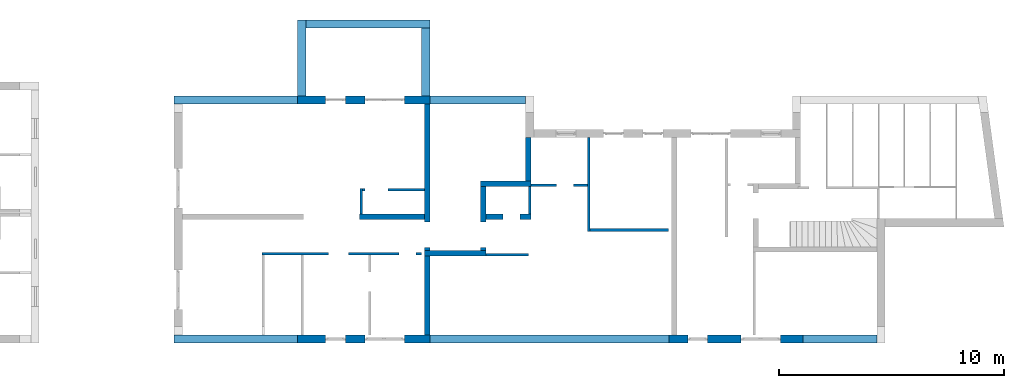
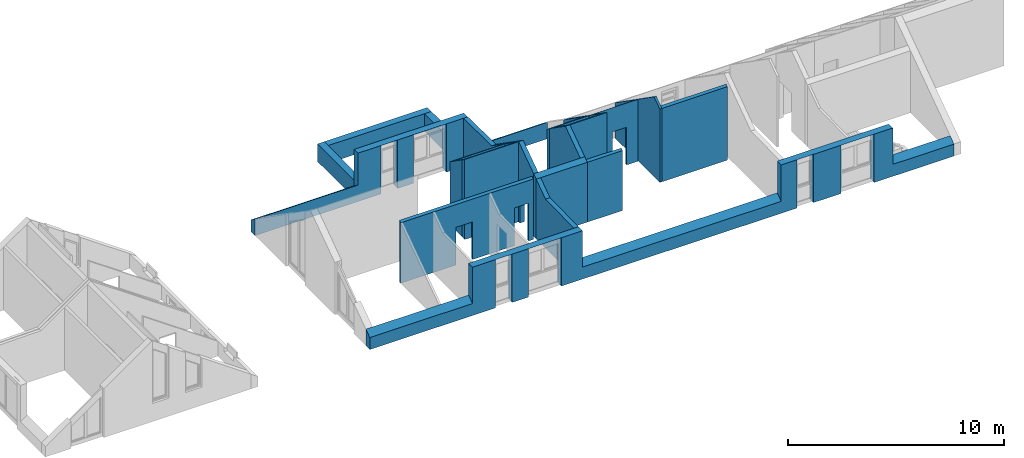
# One storey, part 2 of 23: 21 walls, 13 openings.
"""IFC2X3 building model written with IfcOpenShell, lengths in millimetres."""

from ifc_helpers import new_model, entity, si_unit, converted_unit, frame, frame_2d, origin, origin_with_axes, place, context, subcontext, project, spatial, polyline, rectangle, outline, extrude, clip, halfspace, bounded_halfspace, material, layer, layer_set, layer_usage, element, save


model = new_model("IFC2X3")

# Units and contexts
model_context = context("Model", 3, precision=1e-05, world=origin())
body_context = subcontext(model_context, "Body", "Model", "MODEL_VIEW")
ifc_project = project(units=[si_unit("LENGTHUNIT", "METRE", prefix="MILLI"), converted_unit("PLANEANGLEUNIT", "DEGREE", entity("IfcPlaneAngleMeasure", 0.0174532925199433), si_unit("PLANEANGLEUNIT", "RADIAN"), dimensions=[0, 0, 0, 0, 0, 0, 0]), si_unit("AREAUNIT", "SQUARE_METRE"), si_unit("VOLUMEUNIT", "CUBIC_METRE")], contexts=[model_context])

# Building, storey
building_placement = place(None, origin())
building = spatial("IfcBuilding", under=ifc_project, at=building_placement, Name="Gebäude", CompositionType="ELEMENT")
storey_placement = place(building_placement, frame((0.0, 0.0, 5580.0), z_axis=(0.0, 0.0, 1.0), x_axis=(1.0, 0.0, 0.0)))
storey = spatial("IfcBuildingStorey", under=building, at=storey_placement, Name="DG.- Grundriss", CompositionType="ELEMENT", Elevation=5580.0)

# Wall, openings
ifc_material_1 = material(Name="Poroton")
ifc_layer_1 = layer(ifc_material_1, 365.0000000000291)
ifc_layer_set_1 = layer_set([ifc_layer_1])
ifc_layer_usage_1 = layer_usage(ifc_layer_set_1, "AXIS2", "POSITIVE", 0.0)
wall_1_placement = place(storey_placement, frame((148357.7928067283, 125274.8877324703, 0.0), z_axis=(0.0, 0.0, 1.0), x_axis=(0.9999999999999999, -2.74927920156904e-11, 0.0)))
wall_1 = element("IfcWallStandardCase", 1, at=wall_1_placement, inside=storey, material=ifc_layer_usage_1, Name="<Unnamed Element>", context=body_context, shape_type="Clipping", body=[
    clip(clip(clip(clip(clip(extrude(rectangle(XDim=31280.0, YDim=365.0000000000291, at=frame_2d((15640.0, 182.5000000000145), x_axis=(1.0, 0.0))), origin_with_axes(), (0.0, 0.0, 1.0), 2741.54564934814), bounded_halfspace(frame((11384.99999998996, 365.0000000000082, 935.575751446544), z_axis=(-4.302969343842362e-16, 0.5735764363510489, -0.8191520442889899), x_axis=(2.252077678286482e-11, -0.8191520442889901, -0.5735764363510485)), True, origin(), polyline([(11384.99999998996, 365.0000000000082), (11385.0, -6.259463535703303e-12), (22024.99999860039, -5.552375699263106e-12), (22024.99999859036, 365.0000000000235), (11384.99999998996, 365.0000000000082)]))), bounded_halfspace(frame((5499.999999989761, 365.0000000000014, 935.5757514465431), z_axis=(-4.317638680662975e-16, 0.5735764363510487, -0.81915204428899), x_axis=(-1.0, -2.90124792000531e-15, -1.488264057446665e-15)), True, origin(), polyline([(5499.999999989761, 365.0000000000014), (-1.00348690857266e-08, 364.9999999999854), (0.0, 0.0), (5499.999999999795, 1.404948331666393e-12), (5499.999999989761, 365.0000000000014)]))), bounded_halfspace(frame((27999.99999998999, 365.0000000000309, 935.5757514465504), z_axis=(-2.419408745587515e-16, 0.5735764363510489, -0.81915204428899), x_axis=(2.252077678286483e-11, -0.8191520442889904, -0.5735764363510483)), True, origin(), polyline([(27999.99999998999, 365.0000000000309), (28000.00000000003, 1.86085872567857e-12), (31280.0, 0.0), (31279.99999998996, 365.0000000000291), (27999.99999998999, 365.0000000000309)]))), bounded_halfspace(frame((22024.99999859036, 365.0000000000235, 2741.54564934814), z_axis=(-4.801921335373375e-13, 0.01745240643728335, -0.9998476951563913), x_axis=(2.748860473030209e-11, -0.9998476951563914, -0.01745240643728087)), True, origin(), polyline([(22024.99999859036, 365.0000000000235), (22024.99999860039, -5.552375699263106e-12), (28000.00000000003, 1.86085872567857e-12), (27999.99999998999, 365.0000000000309), (22024.99999859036, 365.0000000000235)]))), bounded_halfspace(frame((5499.999999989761, 365.0000000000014, 2741.545649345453), z_axis=(-4.796320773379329e-13, 0.01745240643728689, -0.9998476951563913), x_axis=(2.748860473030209e-11, -0.9998476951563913, -0.01745240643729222)), True, origin(), polyline([(5499.999999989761, 365.0000000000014), (5499.999999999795, 1.404948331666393e-12), (11385.0, -6.259463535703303e-12), (11384.99999998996, 365.0000000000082), (5499.999999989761, 365.0000000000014)]))),
])
opening_1_placement = place(wall_1_placement, frame((8489.999999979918, -3.477907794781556e-11, 0.0), z_axis=(0.0, 1.0, 0.0), x_axis=(0.0, 0.0, 1.0)))
element("IfcOpeningElement", 2, at=opening_1_placement, cuts=wall_1, Name="Fensteröffnung", ObjectType="Opening", context=body_context, shape_type="SweptSolid", body=[
    extrude(rectangle(XDim=2735.174550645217, YDim=1760.0, at=frame_2d((1367.587275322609, 880.0), x_axis=(1.0, 0.0))), origin_with_axes(), (0.0, 0.0, 1.0), 365.0),
])
opening_2_placement = place(wall_1_placement, frame((25240.29648749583, -1.030266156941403e-10, 0.0), z_axis=(0.0, 1.0, 0.0), x_axis=(0.0, 0.0, 1.0)))
element("IfcOpeningElement", 3, at=opening_2_placement, cuts=wall_1, Name="Fensteröffnung", ObjectType="Opening", context=body_context, shape_type="SweptSolid", body=[
    extrude(rectangle(XDim=2735.174550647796, YDim=1760.0, at=frame_2d((1367.587275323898, 880.0), x_axis=(1.0, 0.0))), origin_with_axes(), (0.0, 0.0, 1.0), 365.0000000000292),
])
opening_3_placement = place(wall_1_placement, frame((6739.999999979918, -3.114109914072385e-11, 0.0), z_axis=(0.0, 1.0, 0.0), x_axis=(0.0, 0.0, 1.0)))
element("IfcOpeningElement", 4, at=opening_3_placement, cuts=wall_1, Name="Fensteröffnung", ObjectType="Opening", context=body_context, shape_type="SweptSolid", body=[
    extrude(rectangle(XDim=2735.174550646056, YDim=885.0, at=frame_2d((1367.587275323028, 442.5), x_axis=(1.0, 0.0))), origin_with_axes(), (0.0, 0.0, 1.0), 365.0000000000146),
])
opening_4_placement = place(wall_1_placement, frame((22865.29648749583, -9.393166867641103e-11, 0.0), z_axis=(0.0, 1.0, 0.0), x_axis=(0.0, 0.0, 1.0)))
element("IfcOpeningElement", 5, at=opening_4_placement, cuts=wall_1, Name="Fensteröffnung", ObjectType="Opening", context=body_context, shape_type="SweptSolid", body=[
    extrude(rectangle(XDim=2735.174550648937, YDim=885.0, at=frame_2d((1367.587275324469, 442.5), x_axis=(1.0, 0.0))), origin_with_axes(), (0.0, 0.0, 1.0), 365.0000000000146),
])

ifc_material_2 = material(Name="Poroton")
ifc_layer_2 = layer(ifc_material_2, 365.0000000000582)
ifc_layer_set_2 = layer_set([ifc_layer_2])
ifc_layer_usage_2 = layer_usage(ifc_layer_set_2, "AXIS2", "POSITIVE", 0.0)
wall_2_placement = place(storey_placement, frame((164002.7928067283, 136274.8877324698, 0.0), z_axis=(0.0, 0.0, 1.0), x_axis=(-1.0, 0.0, 0.0)))
wall_2 = element("IfcWallStandardCase", 6, at=wall_2_placement, inside=storey, material=ifc_layer_usage_2, Name="<Unnamed Element>", context=body_context, shape_type="Clipping", body=[
    clip(clip(clip(extrude(rectangle(XDim=15645.00000000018, YDim=365.0000000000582, at=frame_2d((7822.500000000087, 182.5000000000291), x_axis=(1.0, 0.0))), origin_with_axes(), (0.0, 0.0, 1.0), 2741.371098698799), bounded_halfspace(frame((10145.0000000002, 365.0000000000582, 935.5757514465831), z_axis=(6.652246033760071e-17, 0.5735764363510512, -0.8191520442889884), x_axis=(0.0, -0.819152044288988, -0.5735764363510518)), True, origin(), polyline([(10145.0000000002, 365.0000000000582), (10145.0000000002, 0.0), (15645.00000000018, 0.0), (15645.00000000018, 365.0000000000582), (10145.0000000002, 365.0000000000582)]))), bounded_halfspace(frame((0.0, 365.0000000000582, 935.5757514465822), z_axis=(8.588580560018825e-17, 0.5735764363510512, -0.8191520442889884), x_axis=(0.0, -0.819152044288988, -0.5735764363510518)), True, origin(), polyline([(0.0, 365.0000000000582), (0.0, 0.0), (4260.0, 0.0), (4260.0, 365.0000000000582), (0.0, 365.0000000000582)]))), bounded_halfspace(frame((4260.0, 365.0000000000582, 2741.371098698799), z_axis=(0.0, 0.01745240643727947, -0.9998476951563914), x_axis=(0.0, -0.9998476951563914, -0.01745240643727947)), True, origin(), polyline([(4260.0, 365.0000000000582), (4260.0, 0.0), (10145.0000000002, 0.0), (10145.0000000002, 365.0000000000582), (4260.0, 365.0000000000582)]))),
])
opening_5_placement = place(wall_2_placement, frame((8020.000000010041, 2.91038304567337e-11, 0.0), z_axis=(0.0, 1.0, 0.0), x_axis=(0.0, 0.0, 1.0)))
element("IfcOpeningElement", 7, at=opening_5_placement, cuts=wall_2, Name="Fensteröffnung", ObjectType="Opening", context=body_context, shape_type="SweptSolid", body=[
    extrude(rectangle(XDim=2735.0, YDim=885.0, at=frame_2d((1367.5, 442.5), x_axis=(1.0, 0.0))), origin_with_axes(), (0.0, 0.0, 1.0), 365.0000000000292),
])
opening_6_placement = place(wall_2_placement, frame((5395.000000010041, 5.820766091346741e-11, 0.0), z_axis=(0.0, 1.0, 0.0), x_axis=(0.0, 0.0, 1.0)))
element("IfcOpeningElement", 8, at=opening_6_placement, cuts=wall_2, Name="Fensteröffnung", ObjectType="Opening", context=body_context, shape_type="SweptSolid", body=[
    extrude(rectangle(XDim=2735.0, YDim=1760.0, at=frame_2d((1367.5, 880.0), x_axis=(1.0, 0.0))), origin_with_axes(), (0.0, 0.0, 1.0), 365.0),
])

# Wall
ifc_material_3 = material(Name="Hlz")
ifc_layer_3 = layer(ifc_material_3, 240.0)
ifc_layer_set_3 = layer_set([ifc_layer_3])
ifc_layer_usage_3 = layer_usage(ifc_layer_set_3, "AXIS2", "POSITIVE", 0.0)
wall_3_placement = place(storey_placement, frame((164002.7928067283, 134409.8877324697, 0.0), z_axis=(0.0, 0.0, 1.0), x_axis=(0.0, -1.0, 0.0)))
element("IfcWallStandardCase", 9, at=wall_3_placement, inside=storey, material=ifc_layer_usage_3, Name="<Unnamed Element>", context=body_context, shape_type="Clipping", body=[
    clip(extrude(rectangle(XDim=1925.000000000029, YDim=240.0, at=frame_2d((962.5000000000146, 120.0), x_axis=(1.0, 0.0))), origin_with_axes(), (0.0, 0.0, 1.0), 3333.786569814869), halfspace(frame((0.0, 0.0, 1985.88705876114), z_axis=(0.573576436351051, -2.064109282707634e-16, -0.8191520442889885), x_axis=(0.8191520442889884, 0.0, 0.573576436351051)), True)),
])

# Wall, opening
ifc_material_4 = material(Name="Hlz")
ifc_layer_4 = layer(ifc_material_4, 240.0)
ifc_layer_set_4 = layer_set([ifc_layer_4])
ifc_layer_usage_4 = layer_usage(ifc_layer_set_4, "AXIS2", "POSITIVE", 0.0)
wall_4_placement = place(storey_placement, frame((162242.7928067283, 129389.8877324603, 0.0), z_axis=(0.0, 0.0, 1.0), x_axis=(0.0, 0.9999999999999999, 0.0)))
wall_4 = element("IfcWallStandardCase", 10, at=wall_4_placement, inside=storey, material=ifc_layer_usage_4, Name="<Unnamed Element>", context=body_context, shape_type="Clipping", body=[
    clip(clip(extrude(rectangle(XDim=2855.000000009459, YDim=240.0, at=frame_2d((1427.500000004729, 120.0), x_axis=(1.0, 0.0))), origin_with_axes(), (0.0, 0.0, 1.0), 4531.141460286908), bounded_halfspace(frame((1384.999999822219, 240.0, 4531.141460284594), z_axis=(-0.5735764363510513, -1.332465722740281e-15, -0.8191520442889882), x_axis=(-1.376368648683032e-11, -1.0, 9.64064383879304e-12)), True, origin(), polyline([(1384.999999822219, 240.0), (1384.999999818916, 0.0), (2855.000000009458, 0.0), (2855.000000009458, 240.0), (1384.999999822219, 240.0)]))), bounded_halfspace(frame((0.0, 0.0, 3561.354019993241), z_axis=(0.5735764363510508, -1.578059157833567e-11, -0.8191520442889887), x_axis=(0.8191520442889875, 0.0, 0.5735764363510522)), True, origin(), polyline([(0.0, 0.0), (1384.999999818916, 0.0), (1384.999999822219, 240.0), (0.0, 240.0), (0.0, 0.0)]))),
])
opening_7_placement = place(wall_4_placement, frame((124.9999998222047, 0.0, 0.0), z_axis=(0.0, 1.0, 0.0), x_axis=(0.0, 0.0, 1.0)))
element("IfcOpeningElement", 11, at=opening_7_placement, cuts=wall_4, Name="Türöffnung", ObjectType="Opening", context=body_context, shape_type="SweptSolid", body=[
    extrude(rectangle(XDim=2135.0, YDim=1135.0, at=frame_2d((1067.5, 567.5), x_axis=(1.0, 0.0))), origin_with_axes(), (0.0, 0.0, 1.0), 240.0),
])

# Wall
ifc_material_5 = material(Name="Hlz")
ifc_layer_5 = layer(ifc_material_5, 240.0)
ifc_layer_set_5 = layer_set([ifc_layer_5])
ifc_layer_usage_5 = layer_usage(ifc_layer_set_5, "AXIS2", "POSITIVE", 0.0)
wall_5_placement = place(storey_placement, frame((164242.7928067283, 132484.8877324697, 0.0), z_axis=(0.0, 0.0, 1.0), x_axis=(-1.0, 0.0, 0.0)))
element("IfcWallStandardCase", 12, at=wall_5_placement, inside=storey, material=ifc_layer_usage_5, Name="<Unnamed Element>", context=body_context, shape_type="Clipping", body=[
    clip(extrude(rectangle(XDim=2240.0, YDim=240.0, at=frame_2d((1120.0, 120.0), x_axis=(1.0, 0.0))), origin_with_axes(), (0.0, 0.0, 1.0), 3501.836378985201), halfspace(frame((0.0, 0.0, 3333.786569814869), z_axis=(0.0, 0.5735764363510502, -0.8191520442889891), x_axis=(1.0, 0.0, 0.0)), True)),
])

# Wall, opening
ifc_material_6 = material(Name="Hlz")
ifc_layer_6 = layer(ifc_material_6, 115.0)
ifc_layer_set_6 = layer_set([ifc_layer_6])
ifc_layer_usage_6 = layer_usage(ifc_layer_set_6, "AXIS2", "POSITIVE", 0.0)
wall_6_placement = place(storey_placement, frame((164242.7928067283, 132244.8877324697, 0.0), z_axis=(0.0, 0.0, 1.0), x_axis=(1.0, 0.0, 0.0)))
wall_6 = element("IfcWallStandardCase", 13, at=wall_6_placement, inside=storey, material=ifc_layer_usage_6, Name="<Unnamed Element>", context=body_context, shape_type="Clipping", body=[
    clip(extrude(rectangle(XDim=2510.0, YDim=115.0, at=frame_2d((1255.0, 57.5), x_axis=(1.0, 0.0))), origin_with_axes(), (0.0, 0.0, 1.0), 3501.836378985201), halfspace(frame((0.0, 0.0, 3501.836378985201), z_axis=(0.0, -0.5735764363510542, -0.8191520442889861), x_axis=(1.0, 0.0, 0.0)), True)),
])
opening_8_placement = place(wall_6_placement, frame((1125.0, 0.0, 0.0), z_axis=(0.0, 1.0, 0.0), x_axis=(0.0, 0.0, 1.0)))
element("IfcOpeningElement", 14, at=opening_8_placement, cuts=wall_6, Name="Türöffnung", ObjectType="Opening", context=body_context, shape_type="SweptSolid", body=[
    extrude(rectangle(XDim=2135.0, YDim=760.0, at=frame_2d((1067.5, 380.0), x_axis=(1.0, 0.0))), origin_with_axes(), (0.0, 0.0, 1.0), 115.0),
])

# Wall
ifc_material_7 = material(Name="Hlz")
ifc_layer_7 = layer(ifc_material_7, 115.0)
ifc_layer_set_7 = layer_set([ifc_layer_7])
ifc_layer_usage_7 = layer_usage(ifc_layer_set_7, "AXIS2", "POSITIVE", 0.0)
wall_7_placement = place(storey_placement, frame((166752.7928067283, 134409.8877324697, 0.0), z_axis=(0.0, 0.0, 1.0), x_axis=(0.0, -1.0, 0.0)))
element("IfcWallStandardCase", 15, at=wall_7_placement, inside=storey, material=ifc_layer_usage_7, Name="<Unnamed Element>", context=body_context, shape_type="Clipping", body=[
    clip(clip(extrude(rectangle(XDim=4164.999906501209, YDim=115.0, at=frame_2d((2082.499953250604, 57.5), x_axis=(1.0, 0.0))), origin_with_axes(), (0.0, 0.0, 1.0), 4531.141460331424), bounded_halfspace(frame((0.0, 0.0, 1985.88705876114), z_axis=(0.5735764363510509, 3.182306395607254e-15, -0.8191520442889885), x_axis=(0.8191520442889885, 0.0, 0.5735764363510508)), True, origin(), polyline([(0.0, 0.0), (3635.000000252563, 0.0), (3635.000000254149, 115.0), (0.0, 115.0), (0.0, 0.0)]))), bounded_halfspace(frame((4164.999906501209, 115.0, 4160.031530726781), z_axis=(-0.5735764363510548, 1.579807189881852e-11, -0.8191520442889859), x_axis=(-0.8191520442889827, 0.0, 0.5735764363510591)), True, origin(), polyline([(4164.999906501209, 115.0), (3635.000000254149, 115.0), (3635.000000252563, 0.0), (4164.999906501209, 0.0), (4164.999906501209, 115.0)]))),
])

# Wall, opening
ifc_material_8 = material(Name="Hlz")
ifc_layer_8 = layer(ifc_material_8, 240.0)
ifc_layer_set_8 = layer_set([ifc_layer_8])
ifc_layer_usage_8 = layer_usage(ifc_layer_set_8, "AXIS2", "POSITIVE", 0.0)
wall_8_placement = place(storey_placement, frame((159742.7928067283, 125639.8877321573, 0.0), z_axis=(0.0, 0.0, 1.0), x_axis=(0.0, 1.0, 0.0)))
wall_8 = element("IfcWallStandardCase", 16, at=wall_8_placement, inside=storey, material=ifc_layer_usage_8, Name="<Unnamed Element>", context=body_context, shape_type="Clipping", body=[
    clip(clip(clip(clip(clip(extrude(outline(polyline([(3750.000000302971, 0.0), (10270.00000031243, 0.0), (10270.00000031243, 240.0), (3750.000000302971, 240.0), (3750.000000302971, 0.0)])), origin_with_axes(), (0.0, 0.0, 1.0), 4531.14146026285), bounded_halfspace(frame((5135.000000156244, 0.0, 4531.14146026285), z_axis=(-0.5735764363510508, -9.758491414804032e-16, -0.8191520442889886), x_axis=(0.8191520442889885, 0.0, -0.5735764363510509)), True, origin(), polyline([(5135.000000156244, 0.0), (7625.124415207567, 0.0), (7625.124415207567, 240.0), (5135.000000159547, 240.0), (5135.000000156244, 0.0)]))), bounded_halfspace(frame((3750.000000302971, 0.0, 3561.354019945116), z_axis=(0.5735764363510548, -1.57807350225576e-11, -0.8191520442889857), x_axis=(0.8191520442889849, 0.0, 0.5735764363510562)), True, origin(), polyline([(3750.000000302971, 0.0), (5135.000000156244, 0.0), (5135.000000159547, 240.0), (3750.000000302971, 240.0), (3750.000000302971, 0.0)]))), bounded_halfspace(frame((2645.131242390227, 0.0, 2787.71658692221), z_axis=(0.5735764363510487, -1.576883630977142e-11, -0.8191520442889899), x_axis=(0.8191520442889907, 0.0, 0.5735764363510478)), True, origin(), polyline([(2645.131242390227, 0.0), (3510.000000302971, 0.0), (3510.000000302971, 240.0), (2645.131242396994, 240.0), (2645.131242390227, 0.0)]))), bounded_halfspace(frame((10270.00000031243, 240.0, 2741.371098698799), z_axis=(-0.01745240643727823, 0.0, -0.9998476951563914), x_axis=(-0.9998476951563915, 0.0, 0.01745240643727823)), True, origin(), polyline([(10270.00000031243, 240.0), (7625.124415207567, 240.0), (7625.124415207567, 0.0), (10270.00000031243, 0.0), (10270.00000031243, 240.0)]))), bounded_halfspace(frame((6.592017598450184e-09, 240.0, 2741.545649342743), z_axis=(0.01745240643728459, -4.506230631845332e-15, -0.9998476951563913), x_axis=(-2.746673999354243e-11, -1.0, -4.774847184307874e-13)), True, origin(), polyline([(6.592017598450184e-09, 240.0), (0.0, 0.0), (2645.131242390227, 0.0), (2645.131242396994, 240.0), (6.592017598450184e-09, 240.0)]))),
])
opening_9_placement = place(wall_8_placement, frame((3875.000000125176, 0.0, 0.0), z_axis=(0.0, 1.0, 0.0), x_axis=(0.0, 0.0, 1.0)))
element("IfcOpeningElement", 17, at=opening_9_placement, cuts=wall_8, Name="Türöffnung", ObjectType="Opening", context=body_context, shape_type="SweptSolid", body=[
    extrude(rectangle(XDim=2135.0, YDim=1135.0, at=frame_2d((1067.5, 567.5), x_axis=(1.0, 0.0))), origin_with_axes(), (0.0, 0.0, 1.0), 240.0),
])

# Wall
ifc_material_9 = material(Name="Hlz")
ifc_layer_9 = layer(ifc_material_9, 240.0)
ifc_layer_set_9 = layer_set([ifc_layer_9])
ifc_layer_usage_9 = layer_usage(ifc_layer_set_9, "AXIS2", "POSITIVE", 0.0)
wall_9_placement = place(storey_placement, frame((159742.7928067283, 125639.8877321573, 0.0), z_axis=(0.0, 0.0, 1.0), x_axis=(0.0, 1.0, 0.0)))
element("IfcWallStandardCase", 18, at=wall_9_placement, inside=storey, material=ifc_layer_usage_9, Name="<Unnamed Element>", context=body_context, shape_type="Clipping", body=[
    clip(clip(clip(clip(clip(extrude(outline(polyline([(0.0, 0.0), (3510.000000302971, 0.0), (3510.000000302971, 240.0), (6.592017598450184e-09, 240.0), (0.0, 0.0)])), origin_with_axes(), (0.0, 0.0, 1.0), 4531.14146026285), bounded_halfspace(frame((5135.000000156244, 0.0, 4531.14146026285), z_axis=(-0.5735764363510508, -9.758491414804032e-16, -0.8191520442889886), x_axis=(0.8191520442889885, 0.0, -0.5735764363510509)), True, origin(), polyline([(5135.000000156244, 0.0), (7625.124415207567, 0.0), (7625.124415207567, 240.0), (5135.000000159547, 240.0), (5135.000000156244, 0.0)]))), bounded_halfspace(frame((3750.000000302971, 0.0, 3561.354019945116), z_axis=(0.5735764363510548, -1.57807350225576e-11, -0.8191520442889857), x_axis=(0.8191520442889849, 0.0, 0.5735764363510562)), True, origin(), polyline([(3750.000000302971, 0.0), (5135.000000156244, 0.0), (5135.000000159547, 240.0), (3750.000000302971, 240.0), (3750.000000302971, 0.0)]))), bounded_halfspace(frame((2645.131242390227, 0.0, 2787.71658692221), z_axis=(0.5735764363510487, -1.576883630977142e-11, -0.8191520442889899), x_axis=(0.8191520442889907, 0.0, 0.5735764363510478)), True, origin(), polyline([(2645.131242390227, 0.0), (3510.000000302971, 0.0), (3510.000000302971, 240.0), (2645.131242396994, 240.0), (2645.131242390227, 0.0)]))), bounded_halfspace(frame((10270.00000031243, 240.0, 2741.371098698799), z_axis=(-0.01745240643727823, 0.0, -0.9998476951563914), x_axis=(-0.9998476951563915, 0.0, 0.01745240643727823)), True, origin(), polyline([(10270.00000031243, 240.0), (7625.124415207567, 240.0), (7625.124415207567, 0.0), (10270.00000031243, 0.0), (10270.00000031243, 240.0)]))), bounded_halfspace(frame((6.592017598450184e-09, 240.0, 2741.545649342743), z_axis=(0.01745240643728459, -4.506230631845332e-15, -0.9998476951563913), x_axis=(-2.746673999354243e-11, -1.0, -4.774847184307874e-13)), True, origin(), polyline([(6.592017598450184e-09, 240.0), (0.0, 0.0), (2645.131242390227, 0.0), (2645.131242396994, 240.0), (6.592017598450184e-09, 240.0)]))),
])

# Wall, opening
ifc_material_10 = material(Name="Hlz")
ifc_layer_10 = layer(ifc_material_10, 240.0)
ifc_layer_set_10 = layer_set([ifc_layer_10])
ifc_layer_usage_10 = layer_usage(ifc_layer_set_10, "AXIS2", "POSITIVE", 0.0)
wall_10_placement = place(storey_placement, frame((162242.7928067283, 130774.8877324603, 0.0), z_axis=(0.0, 0.0, 1.0), x_axis=(1.0, 0.0, 0.0)))
wall_10 = element("IfcWallStandardCase", 19, at=wall_10_placement, inside=storey, material=ifc_layer_usage_10, Name="<Unnamed Element>", context=body_context, shape_type="Clipping", body=[
    clip(extrude(rectangle(XDim=2000.0, YDim=240.0, at=frame_2d((1000.0, 120.0), x_axis=(1.0, 0.0))), origin_with_axes(), (0.0, 0.0, 1.0), 4531.14146016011), halfspace(frame((0.0, 240.0, 4363.091650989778), z_axis=(0.0, -0.5735764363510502, -0.819152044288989), x_axis=(0.0, -0.819152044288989, 0.57357643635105)), True)),
])
opening_10_placement = place(wall_10_placement, frame((750.0, 0.0, 0.0), z_axis=(0.0, 1.0, 0.0), x_axis=(0.0, 0.0, 1.0)))
element("IfcOpeningElement", 20, at=opening_10_placement, cuts=wall_10, Name="Türöffnung", ObjectType="Opening", context=body_context, shape_type="SweptSolid", body=[
    extrude(rectangle(XDim=2135.0, YDim=760.0, at=frame_2d((1067.5, 380.0), x_axis=(1.0, 0.0))), origin_with_axes(), (0.0, 0.0, 1.0), 240.0),
])

# Wall
ifc_material_11 = material(Name="Hlz")
ifc_layer_11 = layer(ifc_material_11, 240.0)
ifc_layer_set_11 = layer_set([ifc_layer_11])
ifc_layer_usage_11 = layer_usage(ifc_layer_set_11, "AXIS2", "POSITIVE", 0.0)
wall_11_placement = place(storey_placement, frame((159502.7928067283, 129149.8877324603, 0.0), z_axis=(0.0, 0.0, 1.0), x_axis=(0.9999999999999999, 0.0, 0.0)))
element("IfcWallStandardCase", 21, at=wall_11_placement, inside=storey, material=ifc_layer_usage_11, Name="<Unnamed Element>", context=body_context, shape_type="Clipping", body=[
    clip(extrude(rectangle(XDim=2740.0, YDim=240.0, at=frame_2d((1370.0, 120.0), x_axis=(1.0, 0.0))), origin_with_axes(), (0.0, 0.0, 1.0), 3561.354019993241), halfspace(frame((0.0, 0.0, 3393.304210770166), z_axis=(1.576874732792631e-11, 0.5735764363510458, -0.8191520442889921), x_axis=(1.0, 0.0, 1.925008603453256e-11)), True)),
])

# Wall, openings
ifc_material_12 = material(Name="Hlz")
ifc_layer_12 = layer(ifc_material_12, 115.0)
ifc_layer_set_12 = layer_set([ifc_layer_12])
ifc_layer_usage_12 = layer_usage(ifc_layer_set_12, "AXIS2", "POSITIVE", 0.0)
wall_12_placement = place(storey_placement, frame((159372.7668051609, 129309.8878532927, 0.0), z_axis=(0.0, 0.0, 1.0), x_axis=(-1.0, 0.0, 0.0)))
wall_12 = element("IfcWallStandardCase", 22, at=wall_12_placement, inside=storey, material=ifc_layer_usage_12, Name="<Unnamed Element>", context=body_context, shape_type="Clipping", body=[
    clip(extrude(rectangle(XDim=7104.712661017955, YDim=115.0, at=frame_2d((3552.356330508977, 57.5), x_axis=(1.0, 0.0))), origin_with_axes(), (0.0, 0.0, 1.0), 3505.33750148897), halfspace(frame((0.0, 0.0, 3505.33750148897), z_axis=(-1.576883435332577e-11, -0.5735764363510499, -0.8191520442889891), x_axis=(1.0, 0.0, -1.925006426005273e-11)), True)),
])
opening_11_placement = place(wall_12_placement, frame((3250.0, 0.0, 0.0), z_axis=(0.0, 1.0, 0.0), x_axis=(0.0, 0.0, 1.0)))
element("IfcOpeningElement", 23, at=opening_11_placement, cuts=wall_12, Name="Türöffnung", ObjectType="Opening", context=body_context, shape_type="SweptSolid", body=[
    extrude(rectangle(XDim=2135.0, YDim=885.0, at=frame_2d((1067.5, 442.5), x_axis=(1.0, 0.0))), origin_with_axes(), (0.0, 0.0, 1.0), 115.0),
])
opening_12_placement = place(wall_12_placement, frame((250.0, 0.0, 0.0), z_axis=(0.0, 1.0, 0.0), x_axis=(0.0, 0.0, 1.0)))
element("IfcOpeningElement", 24, at=opening_12_placement, cuts=wall_12, Name="Türöffnung", ObjectType="Opening", context=body_context, shape_type="SweptSolid", body=[
    extrude(rectangle(XDim=2135.0, YDim=760.0, at=frame_2d((1067.5, 380.0), x_axis=(1.0, 0.0))), origin_with_axes(), (0.0, 0.0, 1.0), 115.0),
])

# Wall
ifc_material_13 = material(Name="Hlz")
ifc_layer_13 = layer(ifc_material_13, 240.0)
ifc_layer_set_13 = layer_set([ifc_layer_13])
ifc_layer_usage_13 = layer_usage(ifc_layer_set_13, "AXIS2", "POSITIVE", 0.0)
wall_13_placement = place(storey_placement, frame((156612.7665496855, 130774.8877324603, 0.0), z_axis=(0.0, 0.0, 1.0), x_axis=(0.9999999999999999, 0.0, 0.0)))
element("IfcWallStandardCase", 25, at=wall_13_placement, inside=storey, material=ifc_layer_usage_13, Name="<Unnamed Element>", context=body_context, shape_type="Clipping", body=[
    clip(extrude(rectangle(XDim=2890.02625704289, YDim=240.0, at=frame_2d((1445.013128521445, 120.0), x_axis=(1.0, 0.0))), origin_with_axes(), (0.0, 0.0, 1.0), 4531.14146016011), halfspace(frame((0.0, 240.0, 4363.091650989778), z_axis=(0.0, -0.5735764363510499, -0.819152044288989), x_axis=(0.0, -0.8191520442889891, 0.5735764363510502)), True)),
])

# Wall, opening
ifc_material_14 = material(Name="Hlz")
ifc_layer_14 = layer(ifc_material_14, 115.0)
ifc_layer_set_14 = layer_set([ifc_layer_14])
ifc_layer_usage_14 = layer_usage(ifc_layer_set_14, "AXIS2", "POSITIVE", 0.0)
wall_14_placement = place(storey_placement, frame((159502.7928067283, 132149.8879325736, 0.0), z_axis=(0.0, 0.0, 1.0), x_axis=(-1.0, 0.0, 0.0)))
wall_14 = element("IfcWallStandardCase", 26, at=wall_14_placement, inside=storey, material=ifc_layer_usage_14, Name="<Unnamed Element>", context=body_context, shape_type="Clipping", body=[
    clip(extrude(rectangle(XDim=2765.025816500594, YDim=115.0, at=frame_2d((1382.512908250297, 57.5), x_axis=(1.0, 0.0))), origin_with_axes(), (0.0, 0.0, 1.0), 3648.879821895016), halfspace(frame((0.0, 0.0, 3568.3559550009), z_axis=(0.0, 0.5735764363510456, -0.8191520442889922), x_axis=(1.0, 0.0, 0.0)), True)),
])
opening_13_placement = place(wall_14_placement, frame((1630.025816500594, 0.0, 0.0), z_axis=(0.0, 1.0, 0.0), x_axis=(0.0, 0.0, 1.0)))
element("IfcOpeningElement", 27, at=opening_13_placement, cuts=wall_14, Name="Türöffnung", ObjectType="Opening", context=body_context, shape_type="SweptSolid", body=[
    extrude(rectangle(XDim=2135.0, YDim=1010.0, at=frame_2d((1067.5, 505.0), x_axis=(1.0, 0.0))), origin_with_axes(), (0.0, 0.0, 1.0), 115.0),
])

# Walls
ifc_material_15 = material(Name="Hlz")
ifc_layer_15 = layer(ifc_material_15, 115.0)
ifc_layer_set_15 = layer_set([ifc_layer_15])
ifc_layer_usage_15 = layer_usage(ifc_layer_set_15, "AXIS2", "POSITIVE", 0.0)
wall_15_placement = place(storey_placement, frame((156737.7669902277, 131014.8877324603, 0.0), z_axis=(0.0, 0.0, 1.0), x_axis=(0.0, 1.0, 0.0)))
element("IfcWallStandardCase", 28, at=wall_15_placement, inside=storey, material=ifc_layer_usage_15, Name="<Unnamed Element>", context=body_context, shape_type="Clipping", body=[
    clip(extrude(rectangle(XDim=1135.000200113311, YDim=115.0, at=frame_2d((567.5001000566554, 57.5), x_axis=(1.0, 0.0))), origin_with_axes(), (0.0, 0.0, 1.0), 4363.091650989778), halfspace(frame((0.0, 0.0, 4363.091650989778), z_axis=(-0.5735764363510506, 1.826505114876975e-16, -0.8191520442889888), x_axis=(0.8191520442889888, 0.0, -0.5735764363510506)), True)),
])
ifc_material_16 = material(Name="Hlz")
ifc_layer_16 = layer(ifc_material_16, 115.0)
ifc_layer_set_16 = layer_set([ifc_layer_16])
ifc_layer_usage_16 = layer_usage(ifc_layer_set_16, "AXIS2", "POSITIVE", 0.0)
wall_16_placement = place(storey_placement, frame((166867.7928067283, 130244.8878259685, 0.0), z_axis=(0.0, 0.0, 1.0), x_axis=(1.0, 0.0, 0.0)))
element("IfcWallStandardCase", 29, at=wall_16_placement, inside=storey, material=ifc_layer_usage_16, Name="<Unnamed Element>", context=body_context, shape_type="Clipping", body=[
    clip(extrude(rectangle(XDim=3504.999967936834, YDim=115.0, at=frame_2d((1752.499983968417, 57.5), x_axis=(1.0, 0.0))), origin_with_axes(), (0.0, 0.0, 1.0), 4240.555397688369), halfspace(frame((0.0, 0.0, 4160.031530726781), z_axis=(1.576837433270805e-11, 0.5735764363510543, -0.8191520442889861), x_axis=(1.0, 0.0, 1.924963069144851e-11)), True)),
])
ifc_material_17 = material(Name="Hlz")
ifc_layer_17 = layer(ifc_material_17, 115.0)
ifc_layer_set_17 = layer_set([ifc_layer_17])
ifc_layer_usage_17 = layer_usage(ifc_layer_set_17, "AXIS2", "POSITIVE", 0.0)
wall_17_placement = place(storey_placement, frame((162242.7928067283, 129149.8877324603, 0.0), z_axis=(0.0, 0.0, 1.0), x_axis=(0.9999999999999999, 0.0, 0.0)))
element("IfcWallStandardCase", 30, at=wall_17_placement, inside=storey, material=ifc_layer_usage_17, Name="<Unnamed Element>", context=body_context, shape_type="Clipping", body=[
    clip(extrude(rectangle(XDim=1880.213921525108, YDim=115.0, at=frame_2d((940.1069607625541, 57.49999999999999), x_axis=(1.0, 0.0))), origin_with_axes(), (0.0, 0.0, 1.0), 3473.828077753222), halfspace(frame((0.0, 0.0, 3393.304210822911), z_axis=(1.576873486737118e-11, 0.5735764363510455, -0.8191520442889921), x_axis=(1.0, 0.0, 1.925007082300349e-11)), True)),
])
ifc_material_18 = material(Name="Hlz")
ifc_layer_18 = layer(ifc_material_18, 115.0)
ifc_layer_set_18 = layer_set([ifc_layer_18])
ifc_layer_usage_18 = layer_usage(ifc_layer_set_18, "AXIS2", "POSITIVE", 0.0)
wall_18_placement = place(storey_placement, frame((164127.7928067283, 132244.8877324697, 0.0), z_axis=(0.0, 0.0, 1.0), x_axis=(0.0, -1.0, 0.0)))
element("IfcWallStandardCase", 31, at=wall_18_placement, inside=storey, material=ifc_layer_usage_18, Name="<Unnamed Element>", context=body_context, shape_type="Clipping", body=[
    clip(extrude(rectangle(XDim=1230.000000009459, YDim=115.0, at=frame_2d((615.0000000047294, 57.5), x_axis=(1.0, 0.0))), origin_with_axes(), (0.0, 0.0, 1.0), 4363.091650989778), halfspace(frame((0.0, 0.0, 3501.836378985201), z_axis=(0.5735764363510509, 0.0, -0.8191520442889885), x_axis=(0.8191520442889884, 0.0, 0.5735764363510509)), True)),
])
ifc_material_19 = material(Name="Poroton")
ifc_layer_19 = layer(ifc_material_19, 365.0000000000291)
ifc_layer_set_19 = layer_set([ifc_layer_19])
ifc_layer_usage_19 = layer_usage(ifc_layer_set_19, "AXIS2", "POSITIVE", 0.0)
wall_19_placement = place(storey_placement, frame((154222.7928067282, 136274.8877324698, 0.0), z_axis=(0.0, 0.0, 1.0), x_axis=(0.0, 1.0, 0.0)))
element("IfcWallStandardCase", 32, at=wall_19_placement, inside=storey, material=ifc_layer_usage_19, Name="<Unnamed Element>", context=body_context, shape_type="SweptSolid", body=[
    extrude(rectangle(XDim=3374.999999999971, YDim=365.0000000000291, at=frame_2d((1687.499999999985, 182.5000000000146), x_axis=(1.0, 0.0))), origin_with_axes(), (0.0, 0.0, 1.0), 1000.0),
])
ifc_material_20 = material(Name="Poroton")
ifc_layer_20 = layer(ifc_material_20, 365.0000000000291)
ifc_layer_set_20 = layer_set([ifc_layer_20])
ifc_layer_usage_20 = layer_usage(ifc_layer_set_20, "AXIS2", "POSITIVE", 0.0)
wall_20_placement = place(storey_placement, frame((154222.7928067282, 139284.8877324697, 0.0), z_axis=(0.0, 0.0, 1.0), x_axis=(0.9999999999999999, 0.0, 0.0)))
element("IfcWallStandardCase", 33, at=wall_20_placement, inside=storey, material=ifc_layer_usage_20, Name="<Unnamed Element>", context=body_context, shape_type="SweptSolid", body=[
    extrude(rectangle(XDim=5520.000000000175, YDim=365.0000000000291, at=frame_2d((2760.000000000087, 182.5000000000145), x_axis=(1.0, 0.0))), origin_with_axes(), (0.0, 0.0, 1.0), 1000.0),
])
ifc_material_21 = material(Name="Poroton")
ifc_layer_21 = layer(ifc_material_21, 365.0000000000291)
ifc_layer_set_21 = layer_set([ifc_layer_21])
ifc_layer_usage_21 = layer_usage(ifc_layer_set_21, "AXIS2", "POSITIVE", 0.0)
wall_21_placement = place(storey_placement, frame((159377.7928067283, 139284.8877324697, 0.0), z_axis=(0.0, 0.0, 1.0), x_axis=(0.0, -1.0, 0.0)))
element("IfcWallStandardCase", 34, at=wall_21_placement, inside=storey, material=ifc_layer_usage_21, Name="<Unnamed Element>", context=body_context, shape_type="SweptSolid", body=[
    extrude(rectangle(XDim=3009.999999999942, YDim=365.0000000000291, at=frame_2d((1504.999999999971, 182.5000000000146), x_axis=(1.0, 0.0))), origin_with_axes(), (0.0, 0.0, 1.0), 1000.0),
])

save(model, "model.ifc")
